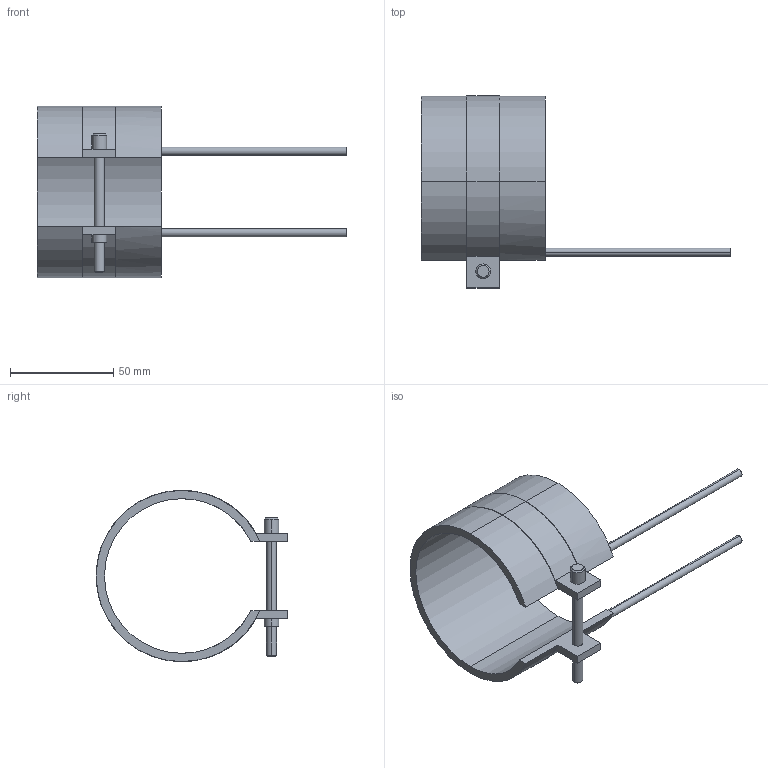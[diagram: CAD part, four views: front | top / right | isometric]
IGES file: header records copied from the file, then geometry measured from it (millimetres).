
Start section: START RECORD GO HERE.
Global section: file name: 14075060.igs; native system: DASSAULT SYSTEMES CATIA V5 R20 - www.3ds.com; preprocessor: CATIA Version 5 Release 20 ; author: Utente; organization: NB04-ASUS; date: 20210403.104222; units: millimetre
Bounding box: 150 x 93.1 x 83.2 mm (x, y, z)
Surface area: 32280.7 mm2 (no closed solid volume)
Topology: 0 solids, 0 shells, 45 faces, 232 edges, 232 vertices
Faces by surface type: revolution 28, plane 17
